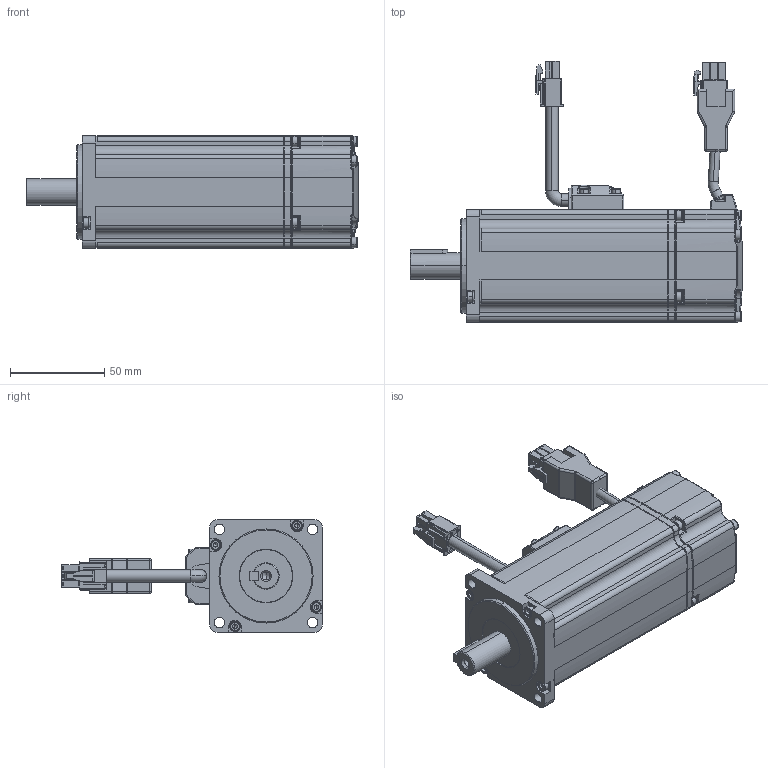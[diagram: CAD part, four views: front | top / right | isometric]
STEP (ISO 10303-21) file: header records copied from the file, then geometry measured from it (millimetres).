
FILE_DESCRIPTION (( 'STEP AP214' ), '1' );
FILE_NAME ('EM3J-04AT（抱闸款）.STEP', '2024-04-09T07:54:06', ( '' ), ( '' ), 'SwSTEP 2.0', 'SolidWorks 2018', '' );
FILE_SCHEMA (( 'AUTOMOTIVE_DESIGN' ));
Length unit declared in the file: millimetre
Products named in the file (1): EM3J-04AT（抱闸款）
Bounding box: 176.5 x 138.7 x 60 mm (x, y, z)
Volume: 497749.2 mm3; surface area: 64705.9 mm2
Topology: 7 solids, 32 shells, 2174 faces, 5425 edges, 3335 vertices
Faces by surface type: plane 1112, cylinder 618, cone 193, torus 127, bspline 69, sphere 55
Entity records: 88964 total; most frequent: CARTESIAN_POINT 13698, DIRECTION 10943, ORIENTED_EDGE 10676, EDGE_CURVE 5338, AXIS2_PLACEMENT_3D 3830, VERTEX_POINT 3335, LINE 3283, VECTOR 3283
